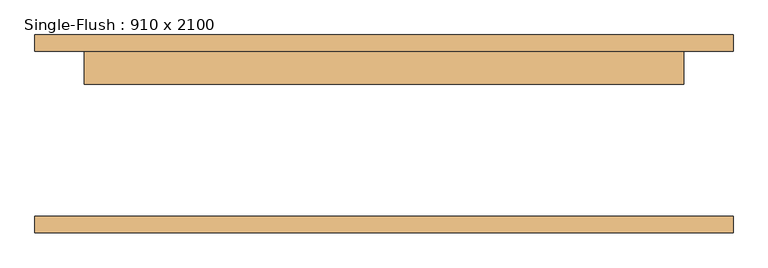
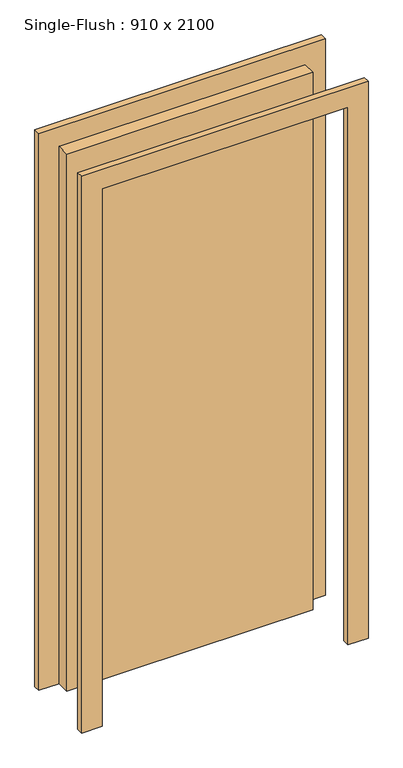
"""IFC4 building model written with IfcOpenShell, lengths in millimetres: door geometry, Single-Flush : 910 x 2100."""

from ifc_helpers import new_model, si_unit, frame, origin, origin_with_axes, place, context, project, spatial, polyline, outline, extrude, source, transform, mapped, element, save


def single_flush_910_x_2100_9d723dec(model_context):
    return source(origin(), model_context, "Body", "SweptSolid", [
        extrude(outline(polyline([(2175.0, -530.0), (0.0, -530.0), (0.0, -455.0), (2100.0, -455.0), (2100.0, 455.0), (0.0, 455.0), (0.0, 530.0), (2175.0, 530.0), (2175.0, -530.0)])), frame((0.0, 125.0, 0.0), z_axis=(0.0, 1.0, 0.0), x_axis=(0.0, 0.0, 1.0)), (0.0, 0.0, 1.0), 25.0),
        extrude(outline(polyline([(2175.0, 530.0), (2175.0, -530.0), (0.0, -530.0), (0.0, -455.0), (2100.0, -455.0), (2100.0, 455.0), (0.0, 455.0), (0.0, 530.0), (2175.0, 530.0)])), frame((0.0, -150.0, 0.0), z_axis=(0.0, 1.0, 0.0), x_axis=(0.0, 0.0, 1.0)), (0.0, 0.0, 1.0), 25.0),
        extrude(outline(polyline([(455.0, 75.0), (-455.0, 75.0), (-455.0, 125.0), (455.0, 125.0), (455.0, 75.0)])), origin_with_axes(), (0.0, 0.0, 1.0), 2100.0),
    ])


if __name__ == "__main__":
    model = new_model("IFC4")
    model_context = context("Model", 3, world=origin())
    ifc_project = project(units=[si_unit("LENGTHUNIT", "METRE", prefix="MILLI")], contexts=[model_context])
    site = spatial("IfcSite", under=ifc_project)
    building = spatial("IfcBuilding", under=site)
    placement = place(None, origin())
    single_flush_910_x_2100_shape = single_flush_910_x_2100_9d723dec(model_context)
    element("IfcDoor", 1, ObjectType="Single-Flush : 910 x 2100", at=placement, inside=building, context=model_context, shape_type="MappedRepresentation", body=[
        mapped(single_flush_910_x_2100_shape, transform((0.0, 0.0, 0.0), x_axis=(1.0, 0.0, 0.0), y_axis=(0.0, 1.0, 0.0), z_axis=(0.0, 0.0, 1.0))),
    ])
    save(model, "model.ifc")
